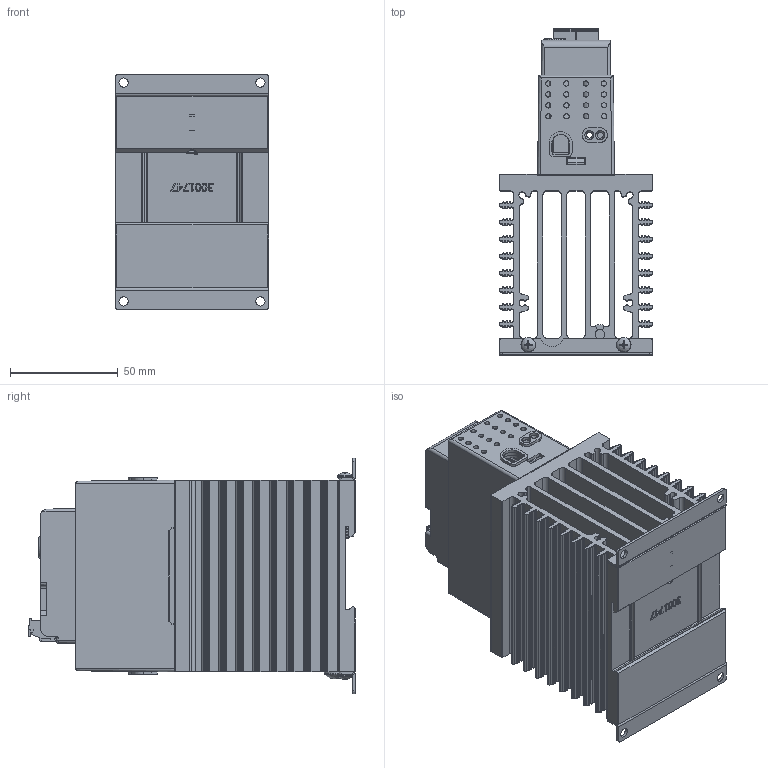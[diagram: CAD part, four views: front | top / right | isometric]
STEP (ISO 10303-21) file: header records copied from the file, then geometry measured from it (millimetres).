
FILE_DESCRIPTION(/* description */ (''),/* implementation_level */ '2;1');
FILE_NAME(/* name */ '1-phase Analog 50A w-mounting.stp',/* time_stamp */ '2024-10-29T14:29:46-05:00',/* author */ ('ErikG'),/* organization */ (''),/* preprocessor_version */ 'ST-DEVELOPER v20',/* originating_system */ 'Autodesk Inventor 2025',/* authorisation */ '');
FILE_SCHEMA (('AUTOMOTIVE_DESIGN { 1 0 10303 214 3 1 1 }'));
Products named in the file (22): 3001631e; 3001757; 1001578K; P1; fci 6 pin header OQ06120000J0G; fci 6 pin headerOQ06120000J0G half 1; fci 5 pin header OQ05120000J0G half 2; fci 6 pin connector TS06110B00J0G; fci 5 pin connector TS05110B00J0G LEFT HALF; fci 5 pin connector TS05110B00J0G RIGHT HALF; P4; usb-c31-s-vt-cs4-bk-pp-t-r-model ADAMTECH; 3001759; 3001760; 3001755; 3001756; 3001747; 0060702-1032-0375; 3001753; 0060002-0632-0375; 0060783-0610-010.ipt; spring
Assembly tree (26 placements, depth 6):
  3001631e
    3001757
    1001578K
      P1
        fci 6 pin header OQ06120000J0G
          fci 6 pin headerOQ06120000J0G half 1
          fci 5 pin header OQ05120000J0G half 2
          fci 6 pin connector TS06110B00J0G
            fci 5 pin connector TS05110B00J0G LEFT HALF
            fci 5 pin connector TS05110B00J0G RIGHT HALF
      P4
        usb-c31-s-vt-cs4-bk-pp-t-r-model ADAMTECH
    3001759
    3001760  x2
    3001755
    3001756
    3001747
    0060702-1032-0375
    3001753  x2
    0060002-0632-0375  x4
    0060783-0610-010.ipt
    spring
Bounding box: 71.12 x 151.53 x 109.22 mm (x, y, z)
Volume: 261767.8 mm3; surface area: 215377.3 mm2
Topology: 22 solids, 112 shells, 5253 faces, 14387 edges, 9435 vertices
Faces by surface type: plane 3694, cylinder 1129, cone 244, bspline 105, torus 74, sphere 7
Full cylindrical faces by diameter (mm): 0.254 x1, 0.45 x2, 0.55 x2, 0.65 x2, 1 x2, 2.3 x12, 2.54 x2, 2.642 x3, 2.95 x6, 3.277 x2, 3.505 x4, 4.318 x8, 4.826 x1, 4.917 x1, 6 x1, 6.172 x1, 6.858 x4, 7.976 x1, 9.474 x1
Entity records: 177044 total; most frequent: CARTESIAN_POINT 45622, ORIENTED_EDGE 27948, DIRECTION 26200, EDGE_CURVE 13974, LINE 10344, VECTOR 10344, VERTEX_POINT 9169, AXIS2_PLACEMENT_3D 7928
